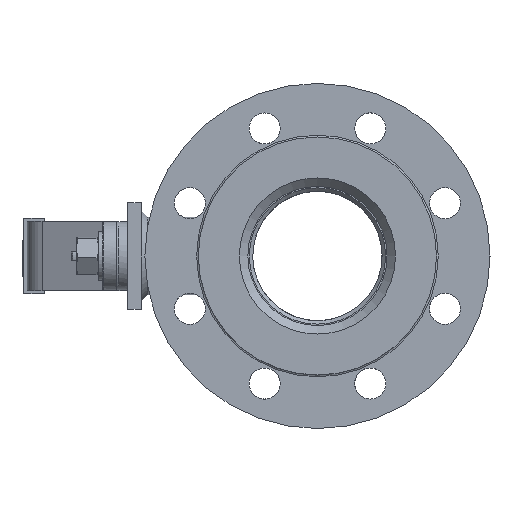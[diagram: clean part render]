
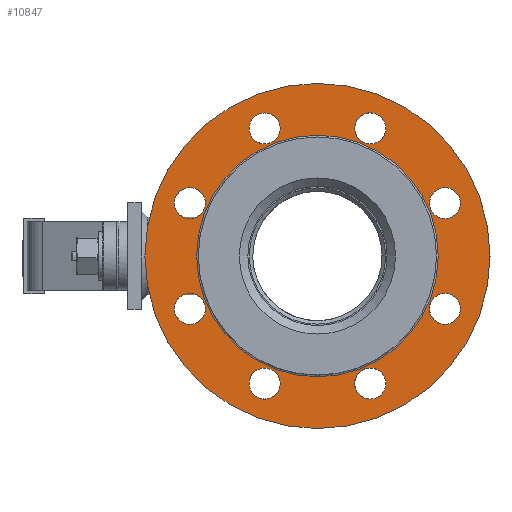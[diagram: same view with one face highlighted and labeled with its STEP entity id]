
A CAD part, left-side view. The second image highlights one B-rep face of the part: STEP entity #10847.
In plain terms, the highlighted planar face has unit normal (-1, 0, 0).
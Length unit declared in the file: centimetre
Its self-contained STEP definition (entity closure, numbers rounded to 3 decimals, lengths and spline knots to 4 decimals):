
#2502=FACE_BOUND('',#3775,.T.);
#2503=FACE_BOUND('',#3776,.T.);
#2504=FACE_BOUND('',#3777,.T.);
#2505=FACE_BOUND('',#3778,.T.);
#2506=FACE_BOUND('',#3779,.T.);
#2507=FACE_BOUND('',#3780,.T.);
#2508=FACE_BOUND('',#3781,.T.);
#2509=FACE_BOUND('',#3782,.T.);
#2510=FACE_BOUND('',#3783,.T.);
#3053=FACE_OUTER_BOUND('',#3774,.T.);
#3774=EDGE_LOOP('',(#9041));
#3775=EDGE_LOOP('',(#9042));
#3776=EDGE_LOOP('',(#9043));
#3777=EDGE_LOOP('',(#9044));
#3778=EDGE_LOOP('',(#9045));
#3779=EDGE_LOOP('',(#9046));
#3780=EDGE_LOOP('',(#9047));
#3781=EDGE_LOOP('',(#9048));
#3782=EDGE_LOOP('',(#9049));
#3783=EDGE_LOOP('',(#9050));
#4209=CIRCLE('',#11632,0.9);
#4210=CIRCLE('',#11634,0.9);
#4211=CIRCLE('',#11636,0.9);
#4212=CIRCLE('',#11638,0.9);
#4213=CIRCLE('',#11640,0.9);
#4214=CIRCLE('',#11642,0.9);
#4215=CIRCLE('',#11644,0.9);
#4216=CIRCLE('',#11646,0.9);
#4217=CIRCLE('',#11648,7.);
#4220=CIRCLE('',#11653,10.);
#5142=VERTEX_POINT('',#17405);
#5143=VERTEX_POINT('',#17408);
#5144=VERTEX_POINT('',#17411);
#5145=VERTEX_POINT('',#17414);
#5146=VERTEX_POINT('',#17417);
#5147=VERTEX_POINT('',#17420);
#5148=VERTEX_POINT('',#17423);
#5149=VERTEX_POINT('',#17426);
#5150=VERTEX_POINT('',#17429);
#5153=VERTEX_POINT('',#17437);
#6497=EDGE_CURVE('',#5142,#5142,#4209,.T.);
#6498=EDGE_CURVE('',#5143,#5143,#4210,.T.);
#6499=EDGE_CURVE('',#5144,#5144,#4211,.T.);
#6500=EDGE_CURVE('',#5145,#5145,#4212,.T.);
#6501=EDGE_CURVE('',#5146,#5146,#4213,.T.);
#6502=EDGE_CURVE('',#5147,#5147,#4214,.T.);
#6503=EDGE_CURVE('',#5148,#5148,#4215,.T.);
#6504=EDGE_CURVE('',#5149,#5149,#4216,.T.);
#6505=EDGE_CURVE('',#5150,#5150,#4217,.T.);
#6508=EDGE_CURVE('',#5153,#5153,#4220,.T.);
#9041=ORIENTED_EDGE('',*,*,#6508,.F.);
#9042=ORIENTED_EDGE('',*,*,#6497,.T.);
#9043=ORIENTED_EDGE('',*,*,#6498,.T.);
#9044=ORIENTED_EDGE('',*,*,#6499,.T.);
#9045=ORIENTED_EDGE('',*,*,#6500,.T.);
#9046=ORIENTED_EDGE('',*,*,#6501,.T.);
#9047=ORIENTED_EDGE('',*,*,#6502,.T.);
#9048=ORIENTED_EDGE('',*,*,#6503,.T.);
#9049=ORIENTED_EDGE('',*,*,#6504,.T.);
#9050=ORIENTED_EDGE('',*,*,#6505,.F.);
#10035=PLANE('',#11652);
#10847=ADVANCED_FACE('',(#3053,#2502,#2503,#2504,#2505,#2506,#2507,#2508,
#2509,#2510),#10035,.T.);
#11632=AXIS2_PLACEMENT_3D('',#17406,#14099,#14100);
#11634=AXIS2_PLACEMENT_3D('',#17409,#14103,#14104);
#11636=AXIS2_PLACEMENT_3D('',#17412,#14107,#14108);
#11638=AXIS2_PLACEMENT_3D('',#17415,#14111,#14112);
#11640=AXIS2_PLACEMENT_3D('',#17418,#14115,#14116);
#11642=AXIS2_PLACEMENT_3D('',#17421,#14119,#14120);
#11644=AXIS2_PLACEMENT_3D('',#17424,#14123,#14124);
#11646=AXIS2_PLACEMENT_3D('',#17427,#14127,#14128);
#11648=AXIS2_PLACEMENT_3D('',#17430,#14131,#14132);
#11652=AXIS2_PLACEMENT_3D('',#17436,#14139,#14140);
#11653=AXIS2_PLACEMENT_3D('',#17438,#14141,#14142);
#14099=DIRECTION('center_axis',(1.,0.,0.));
#14100=DIRECTION('ref_axis',(0.,-0.707,-0.707));
#14103=DIRECTION('center_axis',(1.,0.,0.));
#14104=DIRECTION('ref_axis',(0.,0.,
-1.));
#14107=DIRECTION('center_axis',(1.,0.,0.));
#14108=DIRECTION('ref_axis',(0.,0.707,-0.707));
#14111=DIRECTION('center_axis',(1.,0.,0.));
#14112=DIRECTION('ref_axis',(0.,1.,0.));
#14115=DIRECTION('center_axis',(1.,0.,0.));
#14116=DIRECTION('ref_axis',(0.,0.707,0.707));
#14119=DIRECTION('center_axis',(1.,0.,0.));
#14120=DIRECTION('ref_axis',(0.,0.,
1.));
#14123=DIRECTION('center_axis',(1.,0.,0.));
#14124=DIRECTION('ref_axis',(0.,-0.707,0.707));
#14127=DIRECTION('center_axis',(1.,0.,0.));
#14128=DIRECTION('ref_axis',(0.,-1.,0.));
#14131=DIRECTION('center_axis',(-1.,0.,0.));
#14132=DIRECTION('ref_axis',(0.,1.,0.));
#14139=DIRECTION('center_axis',(-1.,0.,0.));
#14140=DIRECTION('ref_axis',(0.,-1.,0.));
#14141=DIRECTION('center_axis',(1.,0.,0.));
#14142=DIRECTION('ref_axis',(0.,0.,
-1.));
#17405=CARTESIAN_POINT('',(-4.6464,-10.1166,-3.6979));
#17406=CARTESIAN_POINT('Origin',(-4.6464,-9.4802,-3.0615));
#17408=CARTESIAN_POINT('',(-4.6464,-5.1507,-8.291));
#17409=CARTESIAN_POINT('Origin',(-4.6464,-5.1507,-7.391));
#17411=CARTESIAN_POINT('',(-4.6464,1.6087,-8.0274));
#17412=CARTESIAN_POINT('Origin',(-4.6464,0.9723,-7.391));
#17414=CARTESIAN_POINT('',(-4.6464,6.2018,-3.0615));
#17415=CARTESIAN_POINT('Origin',(-4.6464,5.3018,-3.0615));
#17417=CARTESIAN_POINT('',(-4.6464,5.9382,3.6979));
#17418=CARTESIAN_POINT('Origin',(-4.6464,5.3018,3.0615));
#17420=CARTESIAN_POINT('',(-4.6464,0.9723,8.291));
#17421=CARTESIAN_POINT('Origin',(-4.6464,0.9723,7.391));
#17423=CARTESIAN_POINT('',(-4.6464,-5.7871,8.0274));
#17424=CARTESIAN_POINT('Origin',(-4.6464,-5.1507,7.391));
#17426=CARTESIAN_POINT('',(-4.6464,-10.3802,3.0615));
#17427=CARTESIAN_POINT('Origin',(-4.6464,-9.4802,3.0615));
#17429=CARTESIAN_POINT('',(-4.6464,-9.0892,0.));
#17430=CARTESIAN_POINT('Origin',(-4.6464,-2.0892,0.));
#17436=CARTESIAN_POINT('Origin',(-4.6464,-2.0892,0.));
#17437=CARTESIAN_POINT('',(-4.6464,-12.0892,0.));
#17438=CARTESIAN_POINT('Origin',(-4.6464,-2.0892,0.));
